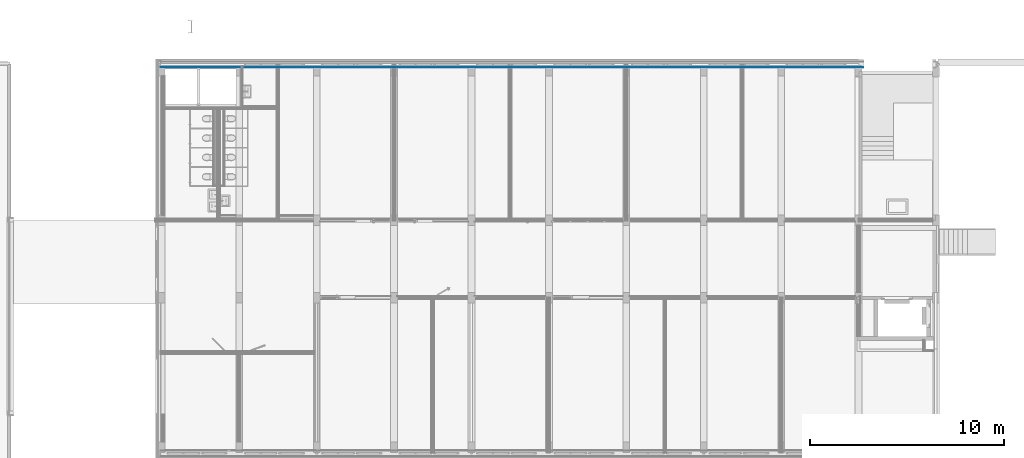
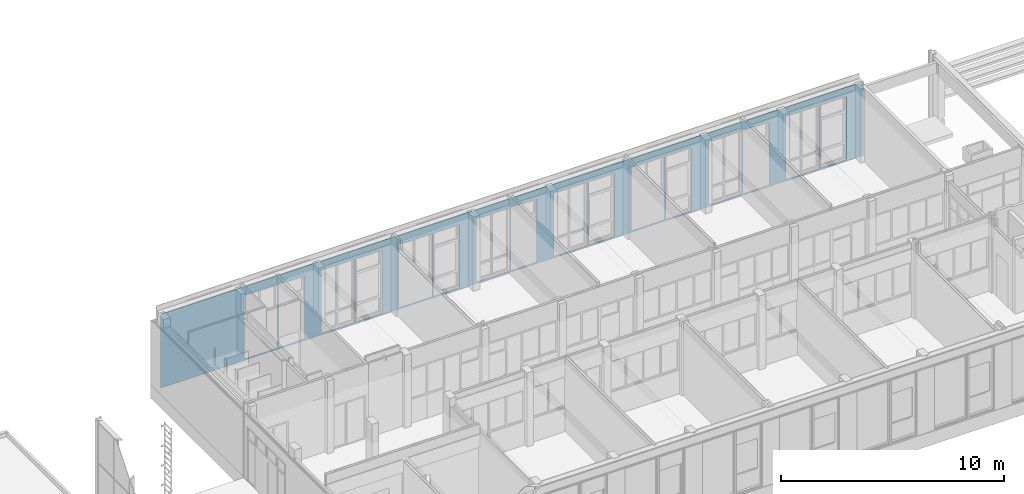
# One storey, part 36 of 54: 1 building element part, 16 openings, 1 element without a shape of its own.
"""IFC2X3 building model written with IfcOpenShell, lengths in millimetres."""

from ifc_helpers import new_model, entity, si_unit, converted_unit, derived_unit, money_unit, direction, frame, origin_with_axes, place, context, subcontext, project, spatial, faceted_brep, material, type_object, element, aggregate, save


model = new_model("IFC2X3")

# Units and contexts
model_context = context("Model", 3, precision=0.01, world=origin_with_axes(), true_north=direction((0.0, 1.0)))
body_context = subcontext(model_context, "Body", "Model", "MODEL_VIEW")
ifc_project = project(units=[si_unit("LENGTHUNIT", "METRE", prefix="MILLI"), si_unit("AREAUNIT", "SQUARE_METRE"), si_unit("VOLUMEUNIT", "CUBIC_METRE"), converted_unit("PLANEANGLEUNIT", "DEGREE", entity("IfcPlaneAngleMeasure", 0.0174532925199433), si_unit("PLANEANGLEUNIT", "RADIAN"), dimensions=[0, 0, 0, 0, 0, 0, 0]), money_unit("EUR"), converted_unit("TIMEUNIT", "Year", entity("IfcTimeMeasure", 31557600.0), si_unit("TIMEUNIT", "SECOND"), dimensions=[0, 0, 1, 0, 0, 0, 0]), si_unit("MASSUNIT", "GRAM", prefix="KILO"), si_unit("THERMODYNAMICTEMPERATUREUNIT", "DEGREE_CELSIUS"), si_unit("LUMINOUSINTENSITYUNIT", "LUMEN"), si_unit("ENERGYUNIT", "JOULE", prefix="MEGA"), derived_unit("THERMALCONDUCTANCEUNIT", [(si_unit("POWERUNIT", "WATT"), 1), (si_unit("LENGTHUNIT", "METRE"), -1), (si_unit("THERMODYNAMICTEMPERATUREUNIT", "KELVIN"), -1)]), derived_unit("SPECIFICHEATCAPACITYUNIT", [(si_unit("ENERGYUNIT", "JOULE"), 1), (si_unit("MASSUNIT", "GRAM", prefix="KILO"), -1), (si_unit("THERMODYNAMICTEMPERATUREUNIT", "KELVIN"), -1)]), derived_unit("MASSDENSITYUNIT", [(si_unit("MASSUNIT", "GRAM", prefix="KILO"), 1), (si_unit("VOLUMEUNIT", "CUBIC_METRE"), -1)])], contexts=[model_context])

# Site, building, storey
site_placement = place(None, origin_with_axes())
site = spatial("IfcSite", under=ifc_project, at=site_placement, Name="<site naam>", CompositionType="ELEMENT")
building_placement = place(site_placement, origin_with_axes())
building = spatial("IfcBuilding", under=site, at=building_placement, Name="<Naam gebouw>", CompositionType="ELEMENT")
storey_placement = place(building_placement, frame((0.0, 0.0, 8500.0), z_axis=(0.0, 0.0, 1.0), x_axis=(1.0, 0.0, 0.0)))
storey = spatial("IfcBuildingStorey", under=building, at=storey_placement, Name="02 2e verdieping", CompositionType="ELEMENT", Elevation=8500.0)

# Wall, openings, building element part
wall_type = type_object("IfcWallType", Name="HSB_285 gevelbeplating 420", PredefinedType="NOTDEFINED")
wall_placement = place(storey_placement, frame((48251.99999966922, 20297.99999999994, 0.0), z_axis=(0.0, 0.0, 1.0), x_axis=(-1.0, 0.0, 0.0)))
wall = element("IfcWall", 1, at=wall_placement, inside=storey, type_object=wall_type, Name="21_Binnenwand_HSB_285")
opening_1_placement = place(wall_placement, frame((1551.00001094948, 0.0, 99.99999999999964), z_axis=(0.0, 0.0, 1.0), x_axis=(1.0, 0.0, 0.0)))
element("IfcOpeningElement", 2, at=opening_1_placement, cuts=wall, Name="21_BU-A-22b sp_305", context=body_context, shape_type="Brep", body=[
    faceted_brep([(662.9999999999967, 213.000000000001, 3450.000000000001), (-662.9999999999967, 213.000000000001, 3450.000000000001), (-662.9999999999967, -1.000000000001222, 3450.000000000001), (662.9999999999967, -1.000000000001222, 3450.000000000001), (662.9999999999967, 421.000000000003, 3450.000000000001), (-662.9999999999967, 421.000000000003, 3450.000000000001), (-662.9999999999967, 213.000000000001, 0.0), (-662.9999999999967, -1.000000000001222, 0.0), (662.9999999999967, -1.000000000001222, 0.0), (662.9999999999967, 213.000000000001, 0.0), (662.9999999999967, 421.000000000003, 0.0), (-662.9999999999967, 421.000000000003, 0.0)], [[[0, 1, 2, 3]], [[1, 0, 4, 5]], [[1, 6, 7, 2]], [[2, 7, 8, 3]], [[9, 0, 3, 8]], [[0, 9, 10, 4]], [[4, 10, 11, 5]], [[6, 1, 5, 11]], [[6, 9, 8, 7]], [[9, 6, 11, 10]]]),
])
opening_2_placement = place(wall_placement, frame((3141.000024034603, 0.0, 99.99999999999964), z_axis=(0.0, 0.0, 1.0), x_axis=(1.0, 0.0, 0.0)))
element("IfcOpeningElement", 3, at=opening_2_placement, cuts=wall, Name="21_BU-A-22a sp_305", context=body_context, shape_type="Brep", body=[
    faceted_brep([(850.9999999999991, 213.000000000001, 3450.000000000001), (-850.9999999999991, 213.000000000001, 3450.000000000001), (-850.9999999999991, -1.000000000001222, 3450.000000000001), (850.9999999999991, -1.000000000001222, 3450.000000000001), (850.9999999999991, 421.000000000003, 3450.000000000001), (-850.9999999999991, 421.000000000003, 3450.000000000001), (-850.9999999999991, 213.000000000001, 0.0), (-850.9999999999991, -1.000000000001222, 0.0), (850.9999999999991, -1.000000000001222, 0.0), (850.9999999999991, 213.000000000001, 0.0), (850.9999999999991, 421.000000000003, 0.0), (-850.9999999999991, 421.000000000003, 0.0)], [[[0, 1, 2, 3]], [[1, 0, 4, 5]], [[1, 6, 7, 2]], [[2, 7, 8, 3]], [[9, 0, 3, 8]], [[0, 9, 10, 4]], [[4, 10, 11, 5]], [[6, 1, 5, 11]], [[6, 9, 8, 7]], [[9, 6, 11, 10]]]),
])
opening_3_placement = place(wall_placement, frame((7140.999999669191, 0.0, 99.99999999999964), z_axis=(0.0, 0.0, 1.0), x_axis=(1.0, 0.0, 0.0)))
element("IfcOpeningElement", 4, at=opening_3_placement, cuts=wall, Name="21_BU-A-22a sp_305", context=body_context, shape_type="Brep", body=[
    faceted_brep([(850.9999999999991, 213.000000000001, 3450.000000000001), (-850.9999999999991, 213.000000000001, 3450.000000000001), (-850.9999999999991, -1.000000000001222, 3450.000000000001), (850.9999999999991, -1.000000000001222, 3450.000000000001), (850.9999999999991, 421.000000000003, 3450.000000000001), (-850.9999999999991, 421.000000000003, 3450.000000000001), (-850.9999999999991, 213.000000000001, 0.0), (-850.9999999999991, -1.000000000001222, 0.0), (850.9999999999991, -1.000000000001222, 0.0), (850.9999999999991, 213.000000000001, 0.0), (850.9999999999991, 421.000000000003, 0.0), (-850.9999999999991, 421.000000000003, 0.0)], [[[0, 1, 2, 3]], [[1, 0, 4, 5]], [[1, 6, 7, 2]], [[2, 7, 8, 3]], [[9, 0, 3, 8]], [[0, 9, 10, 4]], [[4, 10, 11, 5]], [[6, 1, 5, 11]], [[6, 9, 8, 7]], [[9, 6, 11, 10]]]),
])
opening_4_placement = place(wall_placement, frame((11140.99999966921, 0.0, 99.99999999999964), z_axis=(0.0, 0.0, 1.0), x_axis=(1.0, 0.0, 0.0)))
element("IfcOpeningElement", 5, at=opening_4_placement, cuts=wall, Name="21_BU-A-22a sp_305", context=body_context, shape_type="Brep", body=[
    faceted_brep([(850.9999999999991, 213.000000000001, 3450.000000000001), (-850.9999999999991, 213.000000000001, 3450.000000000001), (-850.9999999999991, -1.000000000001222, 3450.000000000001), (850.9999999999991, -1.000000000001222, 3450.000000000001), (850.9999999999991, 421.000000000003, 3450.000000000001), (-850.9999999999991, 421.000000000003, 3450.000000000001), (-850.9999999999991, 213.000000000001, 0.0), (-850.9999999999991, -1.000000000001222, 0.0), (850.9999999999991, -1.000000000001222, 0.0), (850.9999999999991, 213.000000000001, 0.0), (850.9999999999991, 421.000000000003, 0.0), (-850.9999999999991, 421.000000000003, 0.0)], [[[0, 1, 2, 3]], [[1, 0, 4, 5]], [[1, 6, 7, 2]], [[2, 7, 8, 3]], [[9, 0, 3, 8]], [[0, 9, 10, 4]], [[4, 10, 11, 5]], [[6, 1, 5, 11]], [[6, 9, 8, 7]], [[9, 6, 11, 10]]]),
])
opening_5_placement = place(wall_placement, frame((9550.999999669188, 0.0, 99.99999999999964), z_axis=(0.0, 0.0, 1.0), x_axis=(1.0, 0.0, 0.0)))
element("IfcOpeningElement", 6, at=opening_5_placement, cuts=wall, Name="21_BU-A-22b sp_305", context=body_context, shape_type="Brep", body=[
    faceted_brep([(662.9999999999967, 213.000000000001, 3450.000000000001), (-662.9999999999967, 213.000000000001, 3450.000000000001), (-662.9999999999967, -1.000000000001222, 3450.000000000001), (662.9999999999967, -1.000000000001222, 3450.000000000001), (662.9999999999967, 421.000000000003, 3450.000000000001), (-662.9999999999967, 421.000000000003, 3450.000000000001), (-662.9999999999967, 213.000000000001, 0.0), (-662.9999999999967, -1.000000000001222, 0.0), (662.9999999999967, -1.000000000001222, 0.0), (662.9999999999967, 213.000000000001, 0.0), (662.9999999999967, 421.000000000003, 0.0), (-662.9999999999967, 421.000000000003, 0.0)], [[[0, 1, 2, 3]], [[1, 0, 4, 5]], [[1, 6, 7, 2]], [[2, 7, 8, 3]], [[9, 0, 3, 8]], [[0, 9, 10, 4]], [[4, 10, 11, 5]], [[6, 1, 5, 11]], [[6, 9, 8, 7]], [[9, 6, 11, 10]]]),
])
opening_6_placement = place(wall_placement, frame((5550.999999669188, 0.0, 99.99999999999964), z_axis=(0.0, 0.0, 1.0), x_axis=(1.0, 0.0, 0.0)))
element("IfcOpeningElement", 7, at=opening_6_placement, cuts=wall, Name="21_BU-A-22b sp_305", context=body_context, shape_type="Brep", body=[
    faceted_brep([(662.9999999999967, 213.000000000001, 3450.000000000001), (-662.9999999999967, 213.000000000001, 3450.000000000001), (-662.9999999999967, -1.000000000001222, 3450.000000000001), (662.9999999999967, -1.000000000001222, 3450.000000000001), (662.9999999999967, 421.000000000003, 3450.000000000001), (-662.9999999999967, 421.000000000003, 3450.000000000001), (-662.9999999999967, 213.000000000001, 0.0), (-662.9999999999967, -1.000000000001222, 0.0), (662.9999999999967, -1.000000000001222, 0.0), (662.9999999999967, 213.000000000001, 0.0), (662.9999999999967, 421.000000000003, 0.0), (-662.9999999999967, 421.000000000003, 0.0)], [[[0, 1, 2, 3]], [[1, 0, 4, 5]], [[1, 6, 7, 2]], [[2, 7, 8, 3]], [[9, 0, 3, 8]], [[0, 9, 10, 4]], [[4, 10, 11, 5]], [[6, 1, 5, 11]], [[6, 9, 8, 7]], [[9, 6, 11, 10]]]),
])
opening_7_placement = place(wall_placement, frame((13550.99999966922, 0.0, 99.99999999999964), z_axis=(0.0, 0.0, 1.0), x_axis=(1.0, 0.0, 0.0)))
element("IfcOpeningElement", 8, at=opening_7_placement, cuts=wall, Name="21_BU-A-22b sp_305", context=body_context, shape_type="Brep", body=[
    faceted_brep([(662.9999999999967, 213.000000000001, 3450.000000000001), (-662.9999999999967, 213.000000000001, 3450.000000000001), (-662.9999999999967, -1.000000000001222, 3450.000000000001), (662.9999999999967, -1.000000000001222, 3450.000000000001), (662.9999999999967, 421.000000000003, 3450.000000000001), (-662.9999999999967, 421.000000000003, 3450.000000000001), (-662.9999999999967, 213.000000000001, 0.0), (-662.9999999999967, -1.000000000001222, 0.0), (662.9999999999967, -1.000000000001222, 0.0), (662.9999999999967, 213.000000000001, 0.0), (662.9999999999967, 421.000000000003, 0.0), (-662.9999999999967, 421.000000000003, 0.0)], [[[0, 1, 2, 3]], [[1, 0, 4, 5]], [[1, 6, 7, 2]], [[2, 7, 8, 3]], [[9, 0, 3, 8]], [[0, 9, 10, 4]], [[4, 10, 11, 5]], [[6, 1, 5, 11]], [[6, 9, 8, 7]], [[9, 6, 11, 10]]]),
])
opening_8_placement = place(wall_placement, frame((19140.98053610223, 0.0, 99.99999999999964), z_axis=(0.0, 0.0, 1.0), x_axis=(1.0, 0.0, 0.0)))
element("IfcOpeningElement", 9, at=opening_8_placement, cuts=wall, Name="21_BU-A-22a sp_305", context=body_context, shape_type="Brep", body=[
    faceted_brep([(850.9999999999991, 212.9999999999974, 3450.000000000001), (-850.9999999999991, 212.9999999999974, 3450.000000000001), (-850.9999999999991, -1.000000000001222, 3450.000000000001), (850.9999999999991, -1.000000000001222, 3450.000000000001), (850.9999999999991, 421.000000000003, 3450.000000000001), (-850.9999999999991, 421.000000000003, 3450.000000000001), (-850.9999999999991, 212.9999999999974, 0.0), (-850.9999999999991, -1.000000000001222, 0.0), (850.9999999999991, -1.000000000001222, 0.0), (850.9999999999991, 212.9999999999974, 0.0), (850.9999999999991, 421.000000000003, 0.0), (-850.9999999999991, 421.000000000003, 0.0)], [[[0, 1, 2, 3]], [[1, 0, 4, 5]], [[1, 6, 7, 2]], [[2, 7, 8, 3]], [[9, 0, 3, 8]], [[0, 9, 10, 4]], [[4, 10, 11, 5]], [[6, 1, 5, 11]], [[6, 9, 8, 7]], [[9, 6, 11, 10]]]),
])
opening_9_placement = place(wall_placement, frame((17550.99999966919, 0.0, 99.99999999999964), z_axis=(0.0, 0.0, 1.0), x_axis=(1.0, 0.0, 0.0)))
element("IfcOpeningElement", 10, at=opening_9_placement, cuts=wall, Name="21_BU-A-22b sp_305", context=body_context, shape_type="Brep", body=[
    faceted_brep([(663.0000000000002, 212.9999999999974, 3450.000000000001), (-663.0000000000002, 212.9999999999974, 3450.000000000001), (-663.0000000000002, -1.000000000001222, 3450.000000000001), (663.0000000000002, -1.000000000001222, 3450.000000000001), (663.0000000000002, 421.000000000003, 3450.000000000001), (-663.0000000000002, 421.000000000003, 3450.000000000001), (-663.0000000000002, 212.9999999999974, 0.0), (-663.0000000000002, -1.000000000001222, 0.0), (663.0000000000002, -1.000000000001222, 0.0), (663.0000000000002, 212.9999999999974, 0.0), (663.0000000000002, 421.000000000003, 0.0), (-663.0000000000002, 421.000000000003, 0.0)], [[[0, 1, 2, 3]], [[1, 0, 4, 5]], [[1, 6, 7, 2]], [[2, 7, 8, 3]], [[9, 0, 3, 8]], [[0, 9, 10, 4]], [[4, 10, 11, 5]], [[6, 1, 5, 11]], [[6, 9, 8, 7]], [[9, 6, 11, 10]]]),
])
opening_10_placement = place(wall_placement, frame((23141.0125073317, 0.0, 99.99999999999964), z_axis=(0.0, 0.0, 1.0), x_axis=(1.0, 0.0, 0.0)))
element("IfcOpeningElement", 11, at=opening_10_placement, cuts=wall, Name="21_BU-A-22a sp_305", context=body_context, shape_type="Brep", body=[
    faceted_brep([(850.9999999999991, 212.9999999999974, 3450.000000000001), (-850.9999999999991, 212.9999999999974, 3450.000000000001), (-850.9999999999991, -1.000000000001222, 3450.000000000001), (850.9999999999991, -1.000000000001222, 3450.000000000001), (850.9999999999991, 421.000000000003, 3450.000000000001), (-850.9999999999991, 421.000000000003, 3450.000000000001), (-850.9999999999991, 212.9999999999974, 0.0), (-850.9999999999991, -1.000000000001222, 0.0), (850.9999999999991, -1.000000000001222, 0.0), (850.9999999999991, 212.9999999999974, 0.0), (850.9999999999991, 421.000000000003, 0.0), (-850.9999999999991, 421.000000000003, 0.0)], [[[0, 1, 2, 3]], [[1, 0, 4, 5]], [[1, 6, 7, 2]], [[2, 7, 8, 3]], [[9, 0, 3, 8]], [[0, 9, 10, 4]], [[4, 10, 11, 5]], [[6, 1, 5, 11]], [[6, 9, 8, 7]], [[9, 6, 11, 10]]]),
])
opening_11_placement = place(wall_placement, frame((27140.99995093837, 0.0, 99.99999999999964), z_axis=(0.0, 0.0, 1.0), x_axis=(1.0, 0.0, 0.0)))
element("IfcOpeningElement", 12, at=opening_11_placement, cuts=wall, Name="21_BU-A-22a sp_305", context=body_context, shape_type="Brep", body=[
    faceted_brep([(850.9999999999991, 212.9999999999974, 3450.000000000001), (-850.9999999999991, 212.9999999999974, 3450.000000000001), (-850.9999999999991, -1.000000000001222, 3450.000000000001), (850.9999999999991, -1.000000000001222, 3450.000000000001), (850.9999999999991, 421.000000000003, 3450.000000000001), (-850.9999999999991, 421.000000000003, 3450.000000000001), (-850.9999999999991, 212.9999999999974, 0.0), (-850.9999999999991, -1.000000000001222, 0.0), (850.9999999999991, -1.000000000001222, 0.0), (850.9999999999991, 212.9999999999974, 0.0), (850.9999999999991, 421.000000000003, 0.0), (-850.9999999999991, 421.000000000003, 0.0)], [[[0, 1, 2, 3]], [[1, 0, 4, 5]], [[1, 6, 7, 2]], [[2, 7, 8, 3]], [[9, 0, 3, 8]], [[0, 9, 10, 4]], [[4, 10, 11, 5]], [[6, 1, 5, 11]], [[6, 9, 8, 7]], [[9, 6, 11, 10]]]),
])
opening_12_placement = place(wall_placement, frame((21550.98053610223, 0.0, 99.99999999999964), z_axis=(0.0, 0.0, 1.0), x_axis=(1.0, 0.0, 0.0)))
element("IfcOpeningElement", 13, at=opening_12_placement, cuts=wall, Name="21_BU-A-22b sp_305", context=body_context, shape_type="Brep", body=[
    faceted_brep([(663.0000000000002, 212.9999999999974, 3450.000000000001), (-663.0000000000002, 212.9999999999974, 3450.000000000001), (-663.0000000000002, -1.000000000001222, 3450.000000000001), (663.0000000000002, -1.000000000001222, 3450.000000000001), (663.0000000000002, 421.000000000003, 3450.000000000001), (-663.0000000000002, 421.000000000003, 3450.000000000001), (-663.0000000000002, 212.9999999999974, 0.0), (-663.0000000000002, -1.000000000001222, 0.0), (663.0000000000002, -1.000000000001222, 0.0), (663.0000000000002, 212.9999999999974, 0.0), (663.0000000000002, 421.000000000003, 0.0), (-663.0000000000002, 421.000000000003, 0.0)], [[[0, 1, 2, 3]], [[1, 0, 4, 5]], [[1, 6, 7, 2]], [[2, 7, 8, 3]], [[9, 0, 3, 8]], [[0, 9, 10, 4]], [[4, 10, 11, 5]], [[6, 1, 5, 11]], [[6, 9, 8, 7]], [[9, 6, 11, 10]]]),
])
opening_13_placement = place(wall_placement, frame((25550.99999966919, 0.0, 99.99999999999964), z_axis=(0.0, 0.0, 1.0), x_axis=(1.0, 0.0, 0.0)))
element("IfcOpeningElement", 14, at=opening_13_placement, cuts=wall, Name="21_BU-A-22b sp_305", context=body_context, shape_type="Brep", body=[
    faceted_brep([(663.0000000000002, 212.9999999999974, 3450.000000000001), (-663.0000000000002, 212.9999999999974, 3450.000000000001), (-663.0000000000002, -1.000000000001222, 3450.000000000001), (663.0000000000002, -1.000000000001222, 3450.000000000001), (663.0000000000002, 421.000000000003, 3450.000000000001), (-663.0000000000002, 421.000000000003, 3450.000000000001), (-663.0000000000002, 212.9999999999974, 0.0), (-663.0000000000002, -1.000000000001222, 0.0), (663.0000000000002, -1.000000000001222, 0.0), (663.0000000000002, 212.9999999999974, 0.0), (663.0000000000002, 421.000000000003, 0.0), (-663.0000000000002, 421.000000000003, 0.0)], [[[0, 1, 2, 3]], [[1, 0, 4, 5]], [[1, 6, 7, 2]], [[2, 7, 8, 3]], [[9, 0, 3, 8]], [[0, 9, 10, 4]], [[4, 10, 11, 5]], [[6, 1, 5, 11]], [[6, 9, 8, 7]], [[9, 6, 11, 10]]]),
])
opening_14_placement = place(wall_placement, frame((29551.00001094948, 0.0, 99.99999999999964), z_axis=(0.0, 0.0, 1.0), x_axis=(1.0, 0.0, 0.0)))
element("IfcOpeningElement", 15, at=opening_14_placement, cuts=wall, Name="21_BU-A-22b sp_305", context=body_context, shape_type="Brep", body=[
    faceted_brep([(663.0000000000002, 212.9999999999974, 3450.000000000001), (-663.0000000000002, 212.9999999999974, 3450.000000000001), (-663.0000000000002, -1.000000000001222, 3450.000000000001), (663.0000000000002, -1.000000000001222, 3450.000000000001), (663.0000000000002, 421.000000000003, 3450.000000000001), (-663.0000000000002, 421.000000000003, 3450.000000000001), (-663.0000000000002, 212.9999999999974, 0.0), (-663.0000000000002, -1.000000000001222, 0.0), (663.0000000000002, -1.000000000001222, 0.0), (663.0000000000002, 212.9999999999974, 0.0), (663.0000000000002, 421.000000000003, 0.0), (-663.0000000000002, 421.000000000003, 0.0)], [[[0, 1, 2, 3]], [[1, 0, 4, 5]], [[1, 6, 7, 2]], [[2, 7, 8, 3]], [[9, 0, 3, 8]], [[0, 9, 10, 4]], [[4, 10, 11, 5]], [[6, 1, 5, 11]], [[6, 9, 8, 7]], [[9, 6, 11, 10]]]),
])
opening_15_placement = place(wall_placement, frame((15140.99998838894, 0.0, 99.99999999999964), z_axis=(0.0, 0.0, 1.0), x_axis=(1.0, 0.0, 0.0)))
element("IfcOpeningElement", 16, at=opening_15_placement, cuts=wall, Name="21_BU-A-22a sp_305", context=body_context, shape_type="Brep", body=[
    faceted_brep([(850.9999999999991, 212.9999999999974, 3450.000000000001), (-850.9999999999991, 212.9999999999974, 3450.000000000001), (-850.9999999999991, -1.000000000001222, 3450.000000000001), (850.9999999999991, -1.000000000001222, 3450.000000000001), (850.9999999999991, 421.000000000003, 3450.000000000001), (-850.9999999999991, 421.000000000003, 3450.000000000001), (-850.9999999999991, 212.9999999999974, 0.0), (-850.9999999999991, -1.000000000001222, 0.0), (850.9999999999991, -1.000000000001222, 0.0), (850.9999999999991, 212.9999999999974, 0.0), (850.9999999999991, 421.000000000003, 0.0), (-850.9999999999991, 421.000000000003, 0.0)], [[[0, 1, 2, 3]], [[1, 0, 4, 5]], [[1, 6, 7, 2]], [[2, 7, 8, 3]], [[9, 0, 3, 8]], [[0, 9, 10, 4]], [[4, 10, 11, 5]], [[6, 1, 5, 11]], [[6, 9, 8, 7]], [[9, 6, 11, 10]]]),
])
opening_16_placement = place(wall_placement, frame((31140.99993875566, 0.0, 99.99999999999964), z_axis=(0.0, 0.0, 1.0), x_axis=(1.0, 0.0, 0.0)))
element("IfcOpeningElement", 17, at=opening_16_placement, cuts=wall, Name="21_BU-A-22a sp_305", context=body_context, shape_type="Brep", body=[
    faceted_brep([(850.9999999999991, 212.9999999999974, 3450.000000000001), (-850.9999999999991, 212.9999999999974, 3450.000000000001), (-850.9999999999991, -1.000000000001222, 3450.000000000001), (850.9999999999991, -1.000000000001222, 3450.000000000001), (850.9999999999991, 421.000000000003, 3450.000000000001), (-850.9999999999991, 421.000000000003, 3450.000000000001), (-850.9999999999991, 212.9999999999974, 0.0), (-850.9999999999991, -1.000000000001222, 0.0), (850.9999999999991, -1.000000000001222, 0.0), (850.9999999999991, 212.9999999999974, 0.0), (850.9999999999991, 421.000000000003, 0.0), (-850.9999999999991, 421.000000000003, 0.0)], [[[0, 1, 2, 3]], [[1, 0, 4, 5]], [[1, 6, 7, 2]], [[2, 7, 8, 3]], [[9, 0, 3, 8]], [[0, 9, 10, 4]], [[4, 10, 11, 5]], [[6, 1, 5, 11]], [[6, 9, 8, 7]], [[9, 6, 11, 10]]]),
])
ifc_material = material(Name="folie_dampdicht")
building_element_part_placement = place(wall_placement, origin_with_axes())
building_element_part = element("IfcBuildingElementPart", 18, at=building_element_part_placement, material=ifc_material, Name="folie_dampdicht", context=body_context, shape_type="Brep", body=[
    faceted_brep([(36316.99999966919, 391.9999999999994, 4050.000014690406), (0.0, 391.9999999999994, 4050.000014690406), (0.0, 391.9999999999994, 0.0), (18327.08564309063, 391.9999999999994, 0.0), (18327.08564309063, 391.9999999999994, 3.000000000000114), (20076.99989770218, 391.9999999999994, 3.000000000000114), (20076.99989770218, 391.9999999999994, 0.0), (20416.3664353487, 391.9999999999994, 0.0), (20416.3664353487, 391.9999999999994, 3.000000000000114), (24076.98066486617, 391.9999999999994, 3.000000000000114), (24076.98066486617, 391.9999999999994, 0.0), (30327.06167473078, 391.9999999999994, 0.0), (30327.06167473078, 391.9999999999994, 3.000000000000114), (32076.99999966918, 391.9999999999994, 3.000000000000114), (32076.99999966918, 391.9999999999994, 0.0), (36316.99999966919, 391.9999999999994, 0.0), (28077.00001322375, 391.9999999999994, 22.99999999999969), (28077.00001322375, 391.9999999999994, 19.99999999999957), (24427.00024742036, 391.9999999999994, 19.99999999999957), (24427.00024742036, 391.9999999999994, 22.99999999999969), (30176.89930735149, 391.9999999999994, 22.99999999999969), (30176.89930735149, 391.9999999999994, 19.99999999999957), (28426.99990475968, 391.9999999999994, 19.99999999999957), (28426.99990475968, 391.9999999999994, 22.99999999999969), (16076.99992410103, 391.9999999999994, 22.99999999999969), (16076.99992410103, 391.9999999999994, 19.99999999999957), (12426.99986413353, 391.9999999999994, 19.99999999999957), (12426.99986413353, 391.9999999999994, 22.99999999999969), (18177.0017732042, 391.9999999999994, 22.99999999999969), (18177.0017732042, 391.9999999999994, 19.99999999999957), (16426.99993474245, 391.9999999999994, 19.99999999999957), (16426.99993474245, 391.9999999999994, 22.99999999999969), (8076.999903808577, 392.000000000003, 22.99999999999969), (8076.999903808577, 391.9999999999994, 19.99999999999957), (6327.003855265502, 392.000000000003, 19.99999999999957), (6327.003855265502, 391.9999999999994, 22.99999999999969), (12076.99998374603, 391.9999999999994, 22.99999999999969), (12076.99998374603, 391.9999999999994, 19.99999999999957), (8425.679569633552, 392.000000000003, 19.99999999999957), (8425.679569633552, 391.9999999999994, 22.99999999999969), (4077.000002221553, 392.000000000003, 22.99999999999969), (4077.000002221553, 391.9999999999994, 19.99999999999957), (427.0000166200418, 392.000000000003, 19.99999999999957), (427.0000166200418, 391.9999999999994, 22.99999999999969), (6177.187748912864, 392.000000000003, 22.99999999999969), (6177.187748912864, 391.9999999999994, 19.99999999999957), (4427.000000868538, 392.000000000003, 19.99999999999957), (4427.000000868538, 391.9999999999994, 22.99999999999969), (0.0, 392.5000000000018, 4050.000014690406), (36316.99999966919, 392.4999999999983, 4050.000014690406), (0.0, 392.4999999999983, 0.0), (18327.08564309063, 392.4999999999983, 0.0), (18327.08564309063, 392.5000000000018, 3.000000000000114), (20076.99989770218, 392.4999999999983, 3.000000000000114), (20076.99989770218, 392.4999999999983, 0.0), (20416.3664353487, 392.4999999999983, 0.0), (20416.3664353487, 392.5000000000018, 3.000000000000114), (24076.98066486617, 392.4999999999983, 3.000000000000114), (24076.98066486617, 392.4999999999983, 0.0), (30327.06167473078, 392.4999999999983, 0.0), (30327.06167473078, 392.4999999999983, 3.000000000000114), (32076.99999966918, 392.4999999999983, 3.000000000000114), (32076.99999966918, 392.4999999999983, 0.0), (36316.99999966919, 392.4999999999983, 0.0), (28077.00001322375, 392.4999999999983, 19.99999999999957), (28077.00001322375, 392.4999999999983, 22.99999999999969), (24427.00024742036, 392.4999999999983, 19.99999999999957), (24427.00024742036, 392.4999999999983, 22.99999999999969), (30176.89930735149, 392.4999999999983, 19.99999999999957), (30176.89930735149, 392.4999999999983, 22.99999999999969), (28426.99990475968, 392.4999999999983, 19.99999999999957), (28426.99990475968, 392.4999999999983, 22.99999999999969), (16076.99992410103, 392.5000000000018, 19.99999999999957), (16076.99992410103, 392.4999999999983, 22.99999999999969), (12426.99986413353, 392.4999999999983, 19.99999999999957), (12426.99986413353, 392.5000000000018, 22.99999999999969), (18177.0017732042, 392.5000000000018, 19.99999999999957), (18177.0017732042, 392.4999999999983, 22.99999999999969), (16426.99993474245, 392.4999999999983, 19.99999999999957), (16426.99993474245, 392.5000000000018, 22.99999999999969), (8076.999903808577, 392.5000000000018, 19.99999999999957), (8076.999903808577, 392.5000000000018, 22.99999999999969), (6327.003855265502, 392.5000000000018, 19.99999999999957), (6327.003855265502, 392.5000000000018, 22.99999999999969), (12076.99998374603, 392.5000000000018, 19.99999999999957), (12076.99998374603, 392.4999999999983, 22.99999999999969), (8425.679569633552, 392.5000000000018, 19.99999999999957), (8425.679569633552, 392.5000000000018, 22.99999999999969), (4077.000002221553, 392.5000000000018, 19.99999999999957), (4077.000002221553, 392.5000000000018, 22.99999999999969), (427.0000166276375, 392.5000000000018, 19.99999999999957), (427.0000166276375, 392.5000000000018, 22.99999999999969), (6177.187748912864, 392.5000000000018, 19.99999999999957), (6177.187748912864, 392.5000000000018, 22.99999999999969), (4427.000000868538, 392.5000000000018, 19.99999999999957), (4427.000000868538, 392.5000000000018, 22.99999999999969)], [[[0, 1, 2, 3, 4, 5, 6, 7, 8, 9, 10, 11, 12, 13, 14, 15], [16, 17, 18, 19], [20, 21, 22, 23], [24, 25, 26, 27], [28, 29, 30, 31], [32, 33, 34, 35], [36, 37, 38, 39], [40, 41, 42, 43], [44, 45, 46, 47]], [[48, 1, 0, 49]], [[1, 48, 50, 2]], [[50, 51, 3, 2]], [[52, 4, 3, 51]], [[53, 5, 4, 52]], [[54, 6, 5, 53]], [[54, 55, 7, 6]], [[56, 8, 7, 55]], [[57, 9, 8, 56]], [[58, 10, 9, 57]], [[11, 10, 58, 59]], [[60, 12, 11, 59]], [[61, 13, 12, 60]], [[62, 14, 13, 61]], [[15, 14, 62, 63]], [[49, 0, 15, 63]], [[64, 17, 16, 65]], [[66, 18, 17, 64]], [[67, 19, 18, 66]], [[65, 16, 19, 67]], [[68, 21, 20, 69]], [[70, 22, 21, 68]], [[71, 23, 22, 70]], [[69, 20, 23, 71]], [[72, 25, 24, 73]], [[74, 26, 25, 72]], [[75, 27, 26, 74]], [[73, 24, 27, 75]], [[76, 29, 28, 77]], [[78, 30, 29, 76]], [[79, 31, 30, 78]], [[77, 28, 31, 79]], [[80, 33, 32, 81]], [[82, 34, 33, 80]], [[83, 35, 34, 82]], [[81, 32, 35, 83]], [[84, 37, 36, 85]], [[86, 38, 37, 84]], [[87, 39, 38, 86]], [[85, 36, 39, 87]], [[88, 41, 40, 89]], [[90, 42, 41, 88]], [[91, 43, 42, 90]], [[89, 40, 43, 91]], [[92, 45, 44, 93]], [[94, 46, 45, 92]], [[95, 47, 46, 94]], [[93, 44, 47, 95]], [[48, 49, 63, 62, 61, 60, 59, 58, 57, 56, 55, 54, 53, 52, 51, 50], [66, 64, 65, 67], [70, 68, 69, 71], [74, 72, 73, 75], [78, 76, 77, 79], [82, 80, 81, 83], [86, 84, 85, 87], [90, 88, 89, 91], [94, 92, 93, 95]]]),
])
aggregate(wall, [building_element_part])

save(model, "model.ifc")
